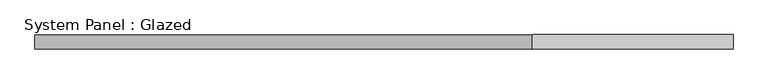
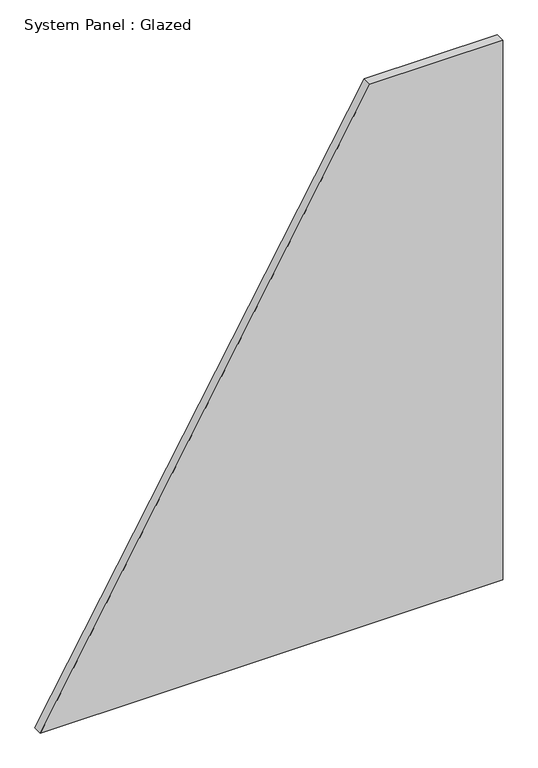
"""IFC4 building model written with IfcOpenShell, lengths in millimetres: plate geometry, System Panel : Glazed."""

from ifc_helpers import new_model, si_unit, frame, origin, place, context, project, spatial, polyline, outline, extrude, source, transform, mapped, element, save


def system_panel_glazed_990974af(model_context):
    return source(origin(), model_context, "Body", "SweptSolid", [
        extrude(outline(polyline([(0.0, -617.5884168), (0.0, 617.5884168), (1524.0, 617.5884168), (1524.0, 262.2933935), (0.0, -617.5884168)])), frame((0.0, 19.05, 0.0), z_axis=(0.0, 1.0, 0.0), x_axis=(0.0, 0.0, 1.0)), (0.0, 0.0, 1.0), 25.4),
    ])


if __name__ == "__main__":
    model = new_model("IFC4")
    model_context = context("Model", 3, world=origin())
    ifc_project = project(units=[si_unit("LENGTHUNIT", "METRE", prefix="MILLI")], contexts=[model_context])
    site = spatial("IfcSite", under=ifc_project)
    building = spatial("IfcBuilding", under=site)
    placement = place(None, origin())
    system_panel_glazed_shape = system_panel_glazed_990974af(model_context)
    element("IfcPlate", 1, ObjectType="System Panel : Glazed", at=placement, inside=building, context=model_context, shape_type="MappedRepresentation", body=[
        mapped(system_panel_glazed_shape, transform((0.0, 0.0, 0.0), x_axis=(1.0, 0.0, 0.0), y_axis=(0.0, 1.0, 0.0), z_axis=(0.0, 0.0, 1.0))),
    ])
    save(model, "model.ifc")
